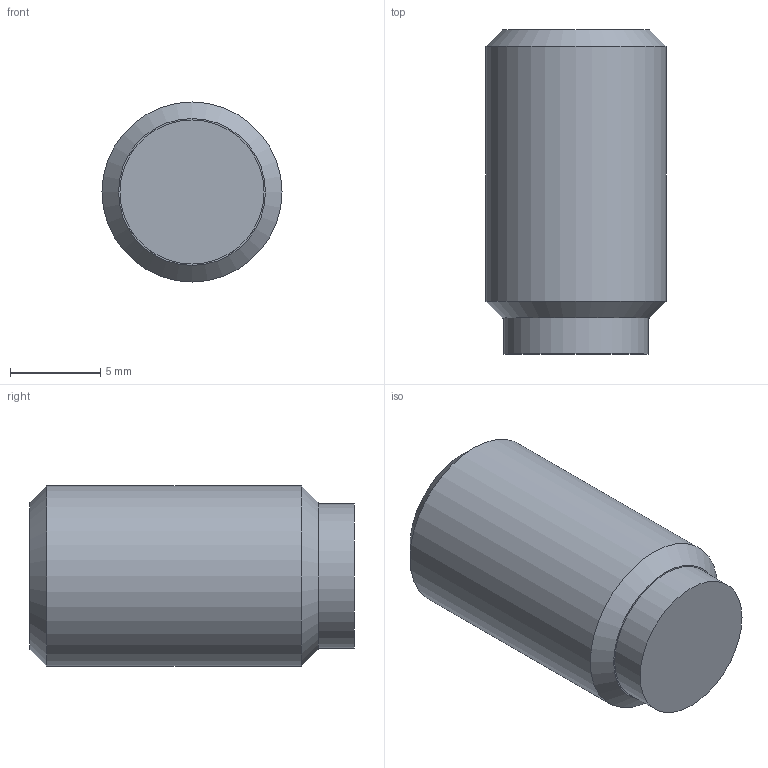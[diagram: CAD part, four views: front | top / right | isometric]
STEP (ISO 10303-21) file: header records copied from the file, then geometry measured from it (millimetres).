
FILE_DESCRIPTION( ( 'STEP AP203' ), '1' );
FILE_NAME( 'C:/Temp/Ganter_Step_05_03_2020/data/3_2/gn913_3/Grub screw GN 913.3-M10-16-MS.stp', '2020-03-13T05:35:51', ( 'License CC BY-ND 4.0' ), ( 'CADENAS' ), ' ', 'PARTsolutions', ' ' );
FILE_SCHEMA( ( 'CONFIG_CONTROL_DESIGN' ) );
Length unit declared in the file: millimetre
Products named in the file (1): _Grub screw GN 913.3-M10-16-MS
Bounding box: 10 x 18 x 10 mm (x, y, z)
Volume: 1202.3 mm3; surface area: 777.9 mm2
Topology: 1 solids, 1 shells, 14 faces, 28 edges, 18 vertices
Faces by surface type: plane 10, cylinder 2, cone 2
Full cylindrical faces by diameter (mm): 8 x1, 10 x1
Entity records: 386 total; most frequent: DIRECTION 60, CARTESIAN_POINT 57, ORIENTED_EDGE 48, EDGE_CURVE 24, AXIS2_PLACEMENT_3D 21, EDGE_LOOP 20, VERTEX_POINT 18, LINE 18
